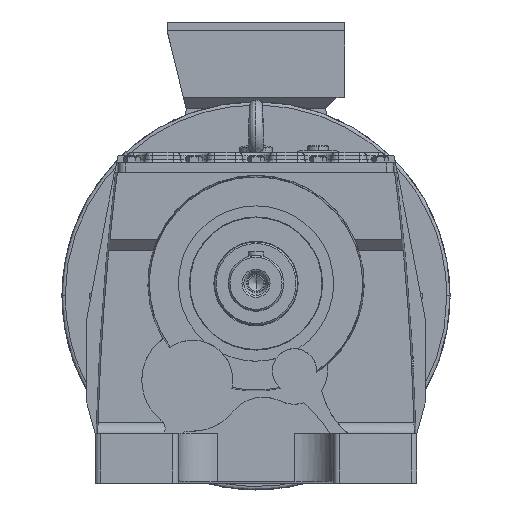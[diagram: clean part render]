
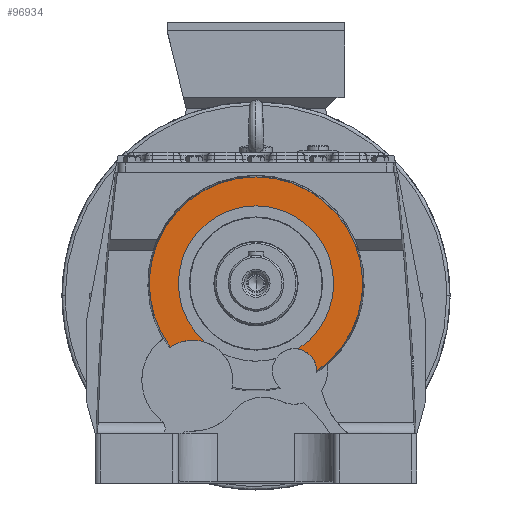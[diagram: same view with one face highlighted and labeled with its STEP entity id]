
A CAD part, top view. The second image highlights one B-rep face of the part: STEP entity #96934.
In plain terms, the highlighted planar face has unit normal (0, 0, 1).
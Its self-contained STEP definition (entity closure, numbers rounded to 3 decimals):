
#19696 = DIRECTION ( 'NONE',  ( 0., 0., -1. ) ) ;
#19743 = DIRECTION ( 'NONE',  ( 0., 1., 0. ) ) ;
#19760 = CARTESIAN_POINT ( 'NONE',  ( 0., 0., 153. ) ) ;
#19775 = CARTESIAN_POINT ( 'NONE',  ( 0., 0., 153. ) ) ;
#19780 = DIRECTION ( 'NONE',  ( -1., 0., 0. ) ) ;
#19796 = DIRECTION ( 'NONE',  ( 0., 0., -1. ) ) ;
#19964 = CARTESIAN_POINT ( 'NONE',  ( 34.675, -78.719, 153. ) ) ;
#19969 = DIRECTION ( 'NONE',  ( -1., 0., 0. ) ) ;
#20084 = DIRECTION ( 'NONE',  ( 0., 0., -1. ) ) ;
#20115 = CARTESIAN_POINT ( 'NONE',  ( 0., 0., 153. ) ) ;
#20124 = DIRECTION ( 'NONE',  ( -1., 0., 0. ) ) ;
#20140 = DIRECTION ( 'NONE',  ( -1., 0., 0. ) ) ;
#20170 = DIRECTION ( 'NONE',  ( 0., 0., -1. ) ) ;
#20193 = CARTESIAN_POINT ( 'NONE',  ( 34.675, -78.719, 153. ) ) ;
#20238 = DIRECTION ( 'NONE',  ( 0., 0., -1. ) ) ;
#25611 = CIRCLE ( 'NONE', #53418, 36. ) ;
#25640 = CIRCLE ( 'NONE', #53419, 96.138 ) ;
#26701 = CIRCLE ( 'NONE', #53429, 70. ) ;
#26787 = CARTESIAN_POINT ( 'NONE',  ( 0., 0., 153. ) ) ;
#26793 = DIRECTION ( 'NONE',  ( 0., 1., 0. ) ) ;
#26809 = DIRECTION ( 'NONE',  ( 0., 0., -1. ) ) ;
#26873 = DIRECTION ( 'NONE',  ( 0., 0., -1. ) ) ;
#26883 = CARTESIAN_POINT ( 'NONE',  ( -56.95, -87.021, 153. ) ) ;
#26885 = DIRECTION ( 'NONE',  ( -1., 0., 0. ) ) ;
#27669 = CARTESIAN_POINT ( 'NONE',  ( 0., 0., 153. ) ) ;
#27686 = DIRECTION ( 'NONE',  ( 0., 0., -1. ) ) ;
#27692 = DIRECTION ( 'NONE',  ( -1., 0., 0. ) ) ;
#39129 = VERTEX_POINT ( 'NONE', #43417 ) ;
#39142 = VERTEX_POINT ( 'NONE', #43377 ) ;
#39143 = VERTEX_POINT ( 'NONE', #43384 ) ;
#39150 = VERTEX_POINT ( 'NONE', #43358 ) ;
#39152 = VERTEX_POINT ( 'NONE', #43359 ) ;
#39155 = VERTEX_POINT ( 'NONE', #43406 ) ;
#39170 = VERTEX_POINT ( 'NONE', #43366 ) ;
#39208 = VERTEX_POINT ( 'NONE', #43448 ) ;
#39609 = EDGE_LOOP ( 'NONE', ( #95822, #95815, #95834, #95853, #95829, #95803, #95802, #95794 ) ) ;
#41400 = CIRCLE ( 'NONE', #53359, 20. ) ;
#41571 = CIRCLE ( 'NONE', #53376, 70. ) ;
#41615 = CIRCLE ( 'NONE', #53350, 20. ) ;
#41679 = CIRCLE ( 'NONE', #53275, 96.138 ) ;
#41683 = CIRCLE ( 'NONE', #53302, 70. ) ;
#43358 = CARTESIAN_POINT ( 'NONE',  ( 37.74, -58.955, 153. ) ) ;
#43359 = CARTESIAN_POINT ( 'NONE',  ( 0., 96.138, 153. ) ) ;
#43366 = CARTESIAN_POINT ( 'NONE',  ( 54.675, -78.719, 153. ) ) ;
#43377 = CARTESIAN_POINT ( 'NONE',  ( -70., 0., 153. ) ) ;
#43384 = CARTESIAN_POINT ( 'NONE',  ( 70., 0., 153. ) ) ;
#43406 = CARTESIAN_POINT ( 'NONE',  ( 54.671, -79.08, 153. ) ) ;
#43417 = CARTESIAN_POINT ( 'NONE',  ( -46.066, -52.706, 153. ) ) ;
#43448 = CARTESIAN_POINT ( 'NONE',  ( -77.219, -57.269, 153. ) ) ;
#53275 = AXIS2_PLACEMENT_3D ( 'NONE', #19775, #19696, #19743 ) ;
#53302 = AXIS2_PLACEMENT_3D ( 'NONE', #19760, #19796, #19780 ) ;
#53350 = AXIS2_PLACEMENT_3D ( 'NONE', #19964, #20084, #19969 ) ;
#53359 = AXIS2_PLACEMENT_3D ( 'NONE', #20193, #20170, #20124 ) ;
#53376 = AXIS2_PLACEMENT_3D ( 'NONE', #20115, #20238, #20140 ) ;
#53418 = AXIS2_PLACEMENT_3D ( 'NONE', #26883, #26873, #26885 ) ;
#53419 = AXIS2_PLACEMENT_3D ( 'NONE', #26787, #26809, #26793 ) ;
#53429 = AXIS2_PLACEMENT_3D ( 'NONE', #27669, #27686, #27692 ) ;
#83576 = AXIS2_PLACEMENT_3D ( 'NONE', #100860, #100954, #100884 ) ;
#86993 = EDGE_CURVE ( 'NONE', #39129, #39142, #41683, .T. ) ;
#86996 = EDGE_CURVE ( 'NONE', #39208, #39152, #41679, .T. ) ;
#87056 = EDGE_CURVE ( 'NONE', #39170, #39155, #41615, .T. ) ;
#87064 = EDGE_CURVE ( 'NONE', #39142, #39143, #41571, .T. ) ;
#87068 = EDGE_CURVE ( 'NONE', #39150, #39170, #41400, .T. ) ;
#87765 = EDGE_CURVE ( 'NONE', #39143, #39150, #26701, .T. ) ;
#87859 = EDGE_CURVE ( 'NONE', #39152, #39155, #25640, .T. ) ;
#87974 = EDGE_CURVE ( 'NONE', #39208, #39129, #25611, .T. ) ;
#95794 = ORIENTED_EDGE ( 'NONE', *, *, #87859, .F. ) ;
#95802 = ORIENTED_EDGE ( 'NONE', *, *, #87056, .T. ) ;
#95803 = ORIENTED_EDGE ( 'NONE', *, *, #87068, .T. ) ;
#95815 = ORIENTED_EDGE ( 'NONE', *, *, #87974, .T. ) ;
#95822 = ORIENTED_EDGE ( 'NONE', *, *, #86996, .F. ) ;
#95829 = ORIENTED_EDGE ( 'NONE', *, *, #87765, .T. ) ;
#95834 = ORIENTED_EDGE ( 'NONE', *, *, #86993, .T. ) ;
#95853 = ORIENTED_EDGE ( 'NONE', *, *, #87064, .T. ) ;
#96934 = ADVANCED_FACE ( 'NONE', ( #103791 ), #100920, .T. ) ;
#100860 = CARTESIAN_POINT ( 'NONE',  ( 0., 0., 153. ) ) ;
#100884 = DIRECTION ( 'NONE',  ( 1., 0., 0. ) ) ;
#100920 = PLANE ( 'NONE',  #83576 ) ;
#100954 = DIRECTION ( 'NONE',  ( 0., 0., 1. ) ) ;
#103791 = FACE_OUTER_BOUND ( 'NONE', #39609, .T. ) ;
